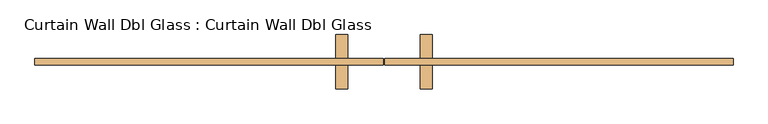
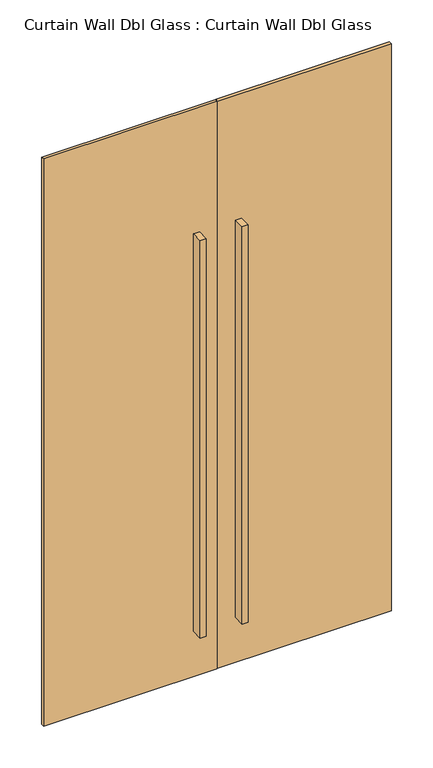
"""IFC4 building model written with IfcOpenShell, lengths in millimetres: door geometry, Curtain Wall Dbl Glass : Curtain Wall Dbl Glass."""

from ifc_helpers import new_model, si_unit, frame, origin, origin_with_axes, place, context, project, spatial, polyline, outline, extrude, source, transform, mapped, element, save


def curtain_wall_dbl_glass_curtain_wall_dbl_glass_5292c49e(model_context):
    return source(origin(), model_context, "Body", "SweptSolid", [
        extrude(outline(polyline([(-76.2, 12.7), (-76.2, -38.1), (-101.6, -38.1), (-101.6, 12.7), (-76.2, 12.7)])), frame((0.0, 0.0, 203.2), z_axis=(0.0, 0.0, 1.0), x_axis=(1.0, 0.0, 0.0)), (0.0, 0.0, 1.0), 1778.0),
        extrude(outline(polyline([(-101.6, -101.6), (-101.6, -50.8), (-76.2, -50.8), (-76.2, -101.6), (-101.6, -101.6)])), frame((0.0, 0.0, 203.2), z_axis=(0.0, 0.0, 1.0), x_axis=(1.0, 0.0, 0.0)), (0.0, 0.0, 1.0), 1778.0),
        extrude(outline(polyline([(101.6, 12.7), (101.6, -38.1), (76.2, -38.1), (76.2, 12.7), (101.6, 12.7)])), frame((0.0, 0.0, 203.2), z_axis=(0.0, 0.0, 1.0), x_axis=(1.0, 0.0, 0.0)), (0.0, 0.0, 1.0), 1778.0),
        extrude(outline(polyline([(76.2, -101.6), (76.2, -50.8), (101.6, -50.8), (101.6, -101.6), (76.2, -101.6)])), frame((0.0, 0.0, 203.2), z_axis=(0.0, 0.0, 1.0), x_axis=(1.0, 0.0, 0.0)), (0.0, 0.0, 1.0), 1778.0),
        extrude(outline(polyline([(-1.5875, -38.1), (-1.5875, -50.8), (-736.6, -50.8), (-736.6, -38.1), (-1.5875, -38.1)])), origin_with_axes(), (0.0, 0.0, 1.0), 2540.0),
        extrude(outline(polyline([(736.6, -38.1), (736.6, -50.8), (1.5875, -50.8), (1.5875, -38.1), (736.6, -38.1)])), origin_with_axes(), (0.0, 0.0, 1.0), 2540.0),
    ])


if __name__ == "__main__":
    model = new_model("IFC4")
    model_context = context("Model", 3, world=origin())
    ifc_project = project(units=[si_unit("LENGTHUNIT", "METRE", prefix="MILLI")], contexts=[model_context])
    site = spatial("IfcSite", under=ifc_project)
    building = spatial("IfcBuilding", under=site)
    placement = place(None, origin())
    curtain_wall_dbl_glass_curtain_wall_dbl_glass_shape = curtain_wall_dbl_glass_curtain_wall_dbl_glass_5292c49e(model_context)
    element("IfcDoor", 1, ObjectType="Curtain Wall Dbl Glass : Curtain Wall Dbl Glass", at=placement, inside=building, context=model_context, shape_type="MappedRepresentation", body=[
        mapped(curtain_wall_dbl_glass_curtain_wall_dbl_glass_shape, transform((0.0, 0.0, 0.0), x_axis=(1.0, 0.0, 0.0), y_axis=(0.0, 1.0, 0.0), z_axis=(0.0, 0.0, 1.0))),
    ])
    save(model, "model.ifc")
